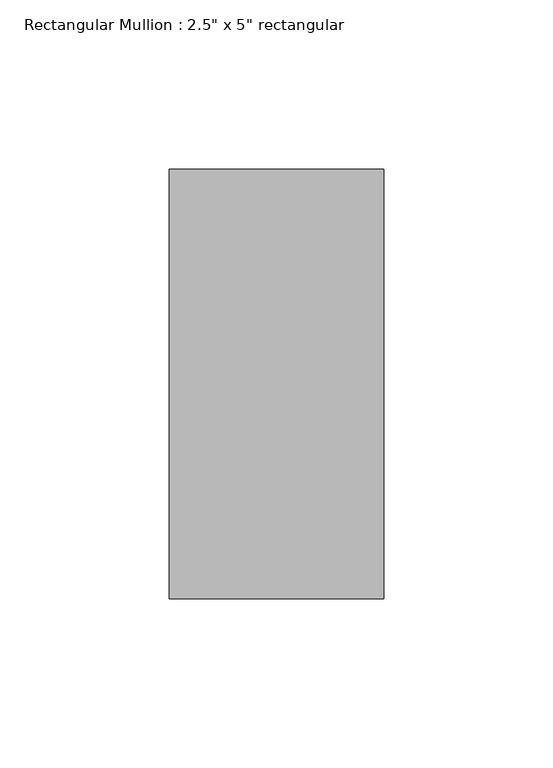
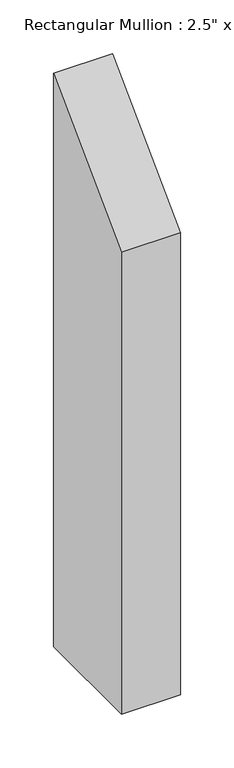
"""IFC4 building model written with IfcOpenShell, lengths in millimetres: member geometry."""

from ifc_helpers import new_model, si_unit, frame, origin, place, context, project, spatial, polyline, outline, extrude, source, transform, mapped, element, save


def member_29c8c3b8(model_context):
    return source(origin(), model_context, "Body", "SweptSolid", [
        extrude(outline(polyline([(-63.5, -63.5), (63.5, 63.5), (63.5, -589.0269188), (-63.5, -589.0269188), (-63.5, -63.5)])), frame((-63.5, 0.0, 0.0), z_axis=(1.0, 0.0, 0.0), x_axis=(0.0, 1.0, 0.0)), (0.0, 0.0, 1.0), 63.5),
    ])


if __name__ == "__main__":
    model = new_model("IFC4")
    model_context = context("Model", 3, world=origin())
    ifc_project = project(units=[si_unit("LENGTHUNIT", "METRE", prefix="MILLI")], contexts=[model_context])
    site = spatial("IfcSite", under=ifc_project)
    building = spatial("IfcBuilding", under=site)
    placement = place(None, origin())
    member_shape = member_29c8c3b8(model_context)
    element("IfcMember", 1, ObjectType="Rectangular Mullion : 2.5\" x 5\" rectangular", at=placement, inside=building, context=model_context, shape_type="MappedRepresentation", body=[
        mapped(member_shape, transform((0.0, 0.0, 0.0), x_axis=(1.0, 0.0, 0.0), y_axis=(0.0, 1.0, 0.0), z_axis=(0.0, 0.0, 1.0))),
    ])
    save(model, "model.ifc")
